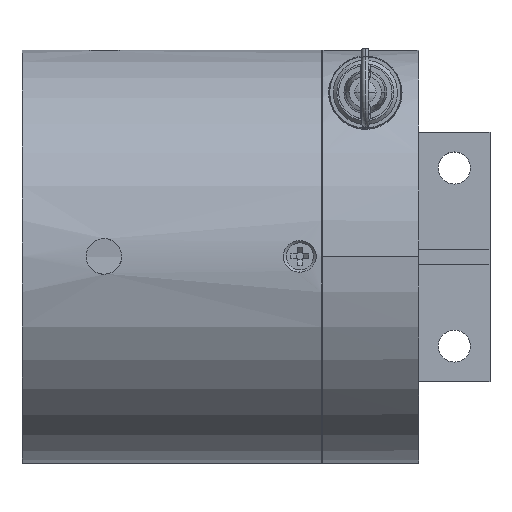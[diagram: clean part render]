
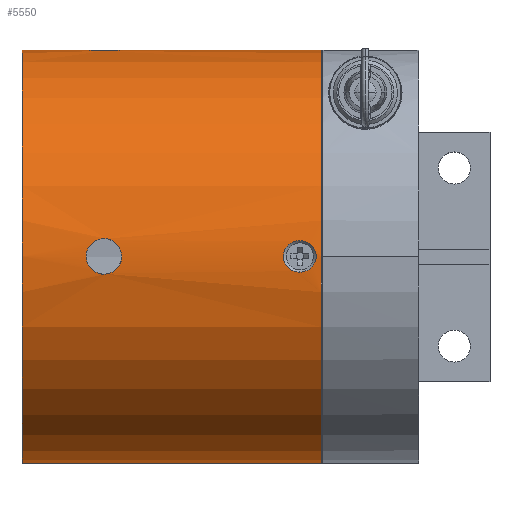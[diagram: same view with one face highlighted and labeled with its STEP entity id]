
A CAD part, top view. The second image highlights one B-rep face of the part: STEP entity #5550.
In plain terms, the highlighted cylindrical face has radius 29 mm (diameter 58 mm), a partial arc.
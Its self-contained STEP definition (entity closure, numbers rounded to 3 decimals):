
#6=DIRECTION('',(-1.,0.,0.));
#7=VECTOR('',#6,9.);
#8=CARTESIAN_POINT('',(-33.7,29.,33.));
#9=LINE('',#8,#7);
#10=DIRECTION('',(-1.,0.,0.));
#11=VECTOR('',#10,28.);
#12=CARTESIAN_POINT('',(-0.7,29.,33.));
#13=LINE('',#12,#11);
#95=CARTESIAN_POINT('',(-33.7,29.,33.));
#96=CARTESIAN_POINT('',(-33.7,29.,33.205));
#97=CARTESIAN_POINT('',(-33.651,28.996,33.601));
#98=CARTESIAN_POINT('',(-33.436,28.978,34.173));
#99=CARTESIAN_POINT('',(-33.09,28.953,34.674));
#100=CARTESIAN_POINT('',(-32.634,28.926,35.078));
#101=CARTESIAN_POINT('',(-32.094,28.904,35.361));
#102=CARTESIAN_POINT('',(-31.504,28.892,35.506));
#103=CARTESIAN_POINT('',(-30.896,28.892,35.506));
#104=CARTESIAN_POINT('',(-30.306,28.904,35.361));
#105=CARTESIAN_POINT('',(-29.766,28.926,35.078));
#106=CARTESIAN_POINT('',(-29.31,28.953,34.674));
#107=CARTESIAN_POINT('',(-28.964,28.978,34.173));
#108=CARTESIAN_POINT('',(-28.749,28.996,33.601));
#109=CARTESIAN_POINT('',(-28.7,29.,33.205));
#110=CARTESIAN_POINT('',(-28.7,29.,33.));
#112=DIRECTION('',(-1.,0.,0.));
#113=VECTOR('',#112,42.);
#114=CARTESIAN_POINT('',(-0.7,-29.,33.));
#115=LINE('',#114,#113);
#116=CARTESIAN_POINT('',(-31.2,-2.5,61.892));
#117=CARTESIAN_POINT('',(-30.994,-2.5,61.892));
#118=CARTESIAN_POINT('',(-30.595,-2.451,61.896));
#119=CARTESIAN_POINT('',(-30.023,-2.234,61.914));
#120=CARTESIAN_POINT('',(-29.522,-1.886,61.94));
#121=CARTESIAN_POINT('',(-29.125,-1.437,61.966));
#122=CARTESIAN_POINT('',(-28.842,-0.901,
61.988));
#123=CARTESIAN_POINT('',(-28.695,-0.312,
62.));
#124=CARTESIAN_POINT('',(-28.693,0.294,62.001));
#125=CARTESIAN_POINT('',(-28.835,0.882,61.988));
#126=CARTESIAN_POINT('',(-29.114,1.421,61.967));
#127=CARTESIAN_POINT('',(-29.511,1.876,61.94));
#128=CARTESIAN_POINT('',(-30.016,2.231,61.915));
#129=CARTESIAN_POINT('',(-30.594,2.451,61.896));
#130=CARTESIAN_POINT('',(-30.994,2.5,61.892));
#131=CARTESIAN_POINT('',(-31.2,2.5,61.892));
#133=CARTESIAN_POINT('',(-31.2,2.5,61.892));
#134=CARTESIAN_POINT('',(-31.406,2.5,61.892));
#135=CARTESIAN_POINT('',(-31.805,2.451,61.896));
#136=CARTESIAN_POINT('',(-32.377,2.234,61.914));
#137=CARTESIAN_POINT('',(-32.878,1.886,61.94));
#138=CARTESIAN_POINT('',(-33.275,1.437,61.966));
#139=CARTESIAN_POINT('',(-33.558,0.901,61.988));
#140=CARTESIAN_POINT('',(-33.705,0.312,62.));
#141=CARTESIAN_POINT('',(-33.707,-0.294,
62.001));
#142=CARTESIAN_POINT('',(-33.565,-0.882,
61.988));
#143=CARTESIAN_POINT('',(-33.286,-1.421,61.967));
#144=CARTESIAN_POINT('',(-32.889,-1.876,61.94));
#145=CARTESIAN_POINT('',(-32.384,-2.231,61.915));
#146=CARTESIAN_POINT('',(-31.806,-2.451,61.896));
#147=CARTESIAN_POINT('',(-31.406,-2.5,61.892));
#148=CARTESIAN_POINT('',(-31.2,-2.5,61.892));
#363=CARTESIAN_POINT('',(-42.7,0.,33.));
#364=DIRECTION('',(1.,0.,0.));
#365=DIRECTION('',(0.,1.,0.));
#366=AXIS2_PLACEMENT_3D('',#363,#364,#365);
#551=CARTESIAN_POINT('',(-0.7,0.,33.));
#552=DIRECTION('',(-1.,0.,0.));
#553=DIRECTION('',(0.,-1.,0.));
#554=AXIS2_PLACEMENT_3D('',#551,#552,#553);
#4322=CARTESIAN_POINT('',(-3.7,2.215,61.915));
#4323=CARTESIAN_POINT('',(-3.497,2.215,61.915));
#4324=CARTESIAN_POINT('',(-3.103,2.165,61.919));
#4325=CARTESIAN_POINT('',(-2.53,1.938,61.936));
#4326=CARTESIAN_POINT('',(-2.041,1.572,61.958));
#4327=CARTESIAN_POINT('',(-1.672,1.099,61.981));
#4328=CARTESIAN_POINT('',(-1.444,0.549,
61.997));
#4329=CARTESIAN_POINT('',(-1.375,-0.025,
62.002));
#4330=CARTESIAN_POINT('',(-1.457,-0.592,
61.996));
#4331=CARTESIAN_POINT('',(-1.69,-1.127,
61.98));
#4332=CARTESIAN_POINT('',(-2.056,-1.584,
61.958));
#4333=CARTESIAN_POINT('',(-2.536,-1.94,
61.935));
#4334=CARTESIAN_POINT('',(-3.101,-2.165,
61.919));
#4335=CARTESIAN_POINT('',(-3.495,-2.215,
61.915));
#4336=CARTESIAN_POINT('',(-3.7,-2.215,61.915));
#4351=CARTESIAN_POINT('',(-3.7,-2.215,61.915));
#4352=CARTESIAN_POINT('',(-3.89,-2.215,
61.915));
#4353=CARTESIAN_POINT('',(-4.258,-2.172,
61.919));
#4354=CARTESIAN_POINT('',(-4.791,-1.975,
61.933));
#4355=CARTESIAN_POINT('',(-5.256,-1.661,
61.953));
#4356=CARTESIAN_POINT('',(-5.627,-1.248,
61.974));
#4357=CARTESIAN_POINT('',(-5.883,-0.763,
61.991));
#4358=CARTESIAN_POINT('',(-6.008,-0.243,
62.001));
#4359=CARTESIAN_POINT('',(-6.002,0.292,
62.));
#4360=CARTESIAN_POINT('',(-5.867,0.801,
61.99));
#4361=CARTESIAN_POINT('',(-5.61,1.271,61.973));
#4362=CARTESIAN_POINT('',(-5.243,1.671,61.953));
#4363=CARTESIAN_POINT('',(-4.786,1.977,61.933));
#4364=CARTESIAN_POINT('',(-4.259,2.171,61.919));
#4365=CARTESIAN_POINT('',(-3.891,2.215,61.915));
#4366=CARTESIAN_POINT('',(-3.7,2.215,61.915));
#5322=CARTESIAN_POINT('',(-3.7,2.215,61.915));
#5323=VERTEX_POINT('',#5322);
#5324=CARTESIAN_POINT('',(-3.7,-2.215,61.915));
#5325=VERTEX_POINT('',#5324);
#5326=CARTESIAN_POINT('',(-42.7,-29.,33.));
#5327=CARTESIAN_POINT('',(-42.7,29.,33.));
#5328=VERTEX_POINT('',#5326);
#5329=VERTEX_POINT('',#5327);
#5334=CARTESIAN_POINT('',(-33.7,29.,33.));
#5335=VERTEX_POINT('',#5334);
#5336=CARTESIAN_POINT('',(-0.7,-29.,33.));
#5337=VERTEX_POINT('',#5336);
#5338=CARTESIAN_POINT('',(-0.7,29.,33.));
#5339=VERTEX_POINT('',#5338);
#5340=CARTESIAN_POINT('',(-28.7,29.,33.));
#5341=VERTEX_POINT('',#5340);
#5359=VERTEX_POINT('',#116);
#5360=VERTEX_POINT('',#131);
#5522=CARTESIAN_POINT('',(-42.7,0.,33.));
#5523=DIRECTION('',(1.,0.,0.));
#5524=DIRECTION('',(0.,-1.,0.));
#5525=AXIS2_PLACEMENT_3D('',#5522,#5523,#5524);
#5526=CYLINDRICAL_SURFACE('',#5525,29.);
#5528=ORIENTED_EDGE('',*,*,#5527,.T.);
#5529=ORIENTED_EDGE('',*,*,#5504,.F.);
#5531=ORIENTED_EDGE('',*,*,#5530,.F.);
#5532=ORIENTED_EDGE('',*,*,#5500,.T.);
#5534=ORIENTED_EDGE('',*,*,#5533,.F.);
#5535=ORIENTED_EDGE('',*,*,#5496,.F.);
#5536=EDGE_LOOP('',(#5528,#5529,#5531,#5532,#5534,#5535));
#5537=FACE_OUTER_BOUND('',#5536,.F.);
#5539=ORIENTED_EDGE('',*,*,#5538,.T.);
#5541=ORIENTED_EDGE('',*,*,#5540,.T.);
#5542=EDGE_LOOP('',(#5539,#5541));
#5543=FACE_BOUND('',#5542,.F.);
#5545=ORIENTED_EDGE('',*,*,#5544,.F.);
#5547=ORIENTED_EDGE('',*,*,#5546,.F.);
#5548=EDGE_LOOP('',(#5545,#5547));
#5549=FACE_BOUND('',#5548,.F.);
#5550=ADVANCED_FACE('',(#5537,#5543,#5549),#5526,.T.);
#111=B_SPLINE_CURVE_WITH_KNOTS('',3,(#95,#96,#97,#98,#99,#100,#101,#102,#103,
#104,#105,#106,#107,#108,#109,#110),.UNSPECIFIED.,.F.,.F.,(4,1,1,1,1,1,1,1,1,1,
1,1,1,4),(0.,0.077,0.154,0.231,
0.308,0.385,0.462,0.538,
0.615,0.692,0.769,0.846,
0.923,1.),.UNSPECIFIED.);
#132=B_SPLINE_CURVE_WITH_KNOTS('',3,(#116,#117,#118,#119,#120,#121,#122,#123,
#124,#125,#126,#127,#128,#129,#130,#131),.UNSPECIFIED.,.F.,.F.,(4,1,1,1,1,1,1,1,
1,1,1,1,1,4),(0.,0.077,0.154,0.231,
0.308,0.385,0.462,0.538,
0.615,0.692,0.769,0.846,
0.923,1.),.UNSPECIFIED.);
#149=B_SPLINE_CURVE_WITH_KNOTS('',3,(#133,#134,#135,#136,#137,#138,#139,#140,
#141,#142,#143,#144,#145,#146,#147,#148),.UNSPECIFIED.,.F.,.F.,(4,1,1,1,1,1,1,1,
1,1,1,1,1,4),(0.,0.077,0.154,0.231,
0.308,0.385,0.462,0.538,
0.615,0.692,0.769,0.846,
0.923,1.),.UNSPECIFIED.);
#367=CIRCLE('',#366,29.);
#555=CIRCLE('',#554,29.);
#4337=B_SPLINE_CURVE_WITH_KNOTS('',3,(#4322,#4323,#4324,#4325,#4326,#4327,#4328,
#4329,#4330,#4331,#4332,#4333,#4334,#4335,#4336),.UNSPECIFIED.,.F.,.F.,(4,1,1,1,
1,1,1,1,1,1,1,1,4),(0.,0.083,0.167,0.25,
0.333,0.417,0.5,0.583,0.667,
0.75,0.833,0.917,1.),.UNSPECIFIED.);
#4367=B_SPLINE_CURVE_WITH_KNOTS('',3,(#4351,#4352,#4353,#4354,#4355,#4356,#4357,
#4358,#4359,#4360,#4361,#4362,#4363,#4364,#4365,#4366),.UNSPECIFIED.,.F.,.F.,(4,
1,1,1,1,1,1,1,1,1,1,1,1,4),(0.,0.077,0.154,
0.231,0.308,0.385,0.462,
0.538,0.615,0.692,0.769,
0.846,0.923,1.),.UNSPECIFIED.);
#5496=EDGE_CURVE('',#5335,#5329,#9,.T.);
#5500=EDGE_CURVE('',#5337,#5328,#115,.T.);
#5504=EDGE_CURVE('',#5339,#5341,#13,.T.);
#5527=EDGE_CURVE('',#5335,#5341,#111,.T.);
#5530=EDGE_CURVE('',#5337,#5339,#555,.T.);
#5533=EDGE_CURVE('',#5329,#5328,#367,.T.);
#5538=EDGE_CURVE('',#5359,#5360,#132,.T.);
#5540=EDGE_CURVE('',#5360,#5359,#149,.T.);
#5544=EDGE_CURVE('',#5323,#5325,#4337,.T.);
#5546=EDGE_CURVE('',#5325,#5323,#4367,.T.);
